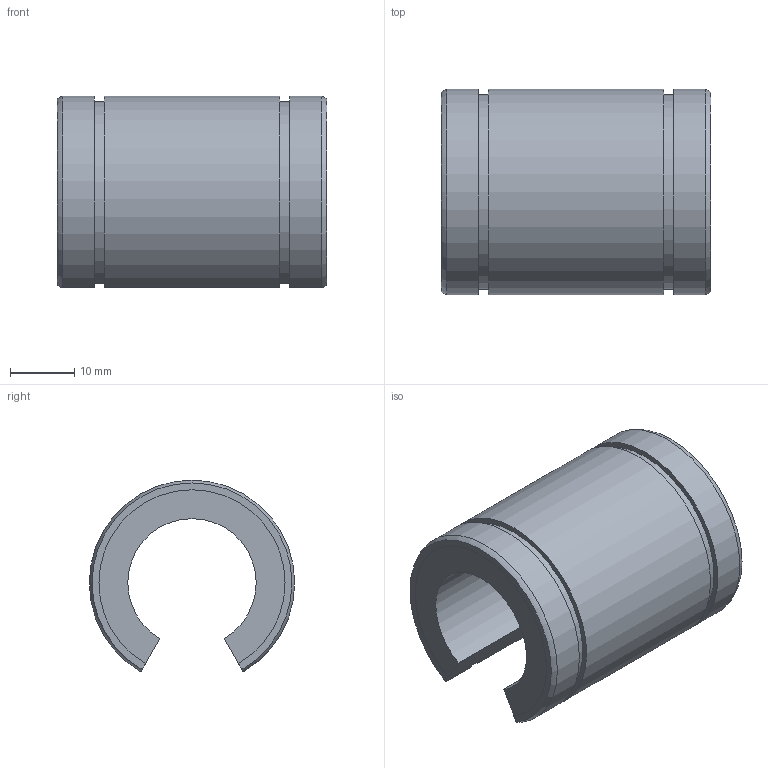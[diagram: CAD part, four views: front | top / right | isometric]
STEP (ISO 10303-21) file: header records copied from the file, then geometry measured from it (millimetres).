
FILE_DESCRIPTION((''),'2;1');
FILE_NAME('D:\製品 (図面)\カタログ用3D\リニアベアリング関連\STEP形式\L-OP\L20-OP.stp','2010-06-04T09:33:19',('Tsuchiya'),(''),'Autodesk Inventor 10','Autodesk Inventor 10','');
FILE_SCHEMA(('AUTOMOTIVE_DESIGN { 1 0 10303 214 1 1 1 1 }'));
Length unit declared in the file: millimetre
Products named in the file (1): L20-OP
Bounding box: 42 x 32 x 29.86 mm (x, y, z)
Volume: 16845.4 mm3; surface area: 7242.1 mm2
Topology: 1 solids, 1 shells, 20 faces, 54 edges, 36 vertices
Faces by surface type: plane 10, cylinder 8, torus 2
Entity records: 663 total; most frequent: DIRECTION 118, CARTESIAN_POINT 111, ORIENTED_EDGE 108, EDGE_CURVE 54, AXIS2_PLACEMENT_3D 43, VERTEX_POINT 36, VECTOR 32, LINE 32
